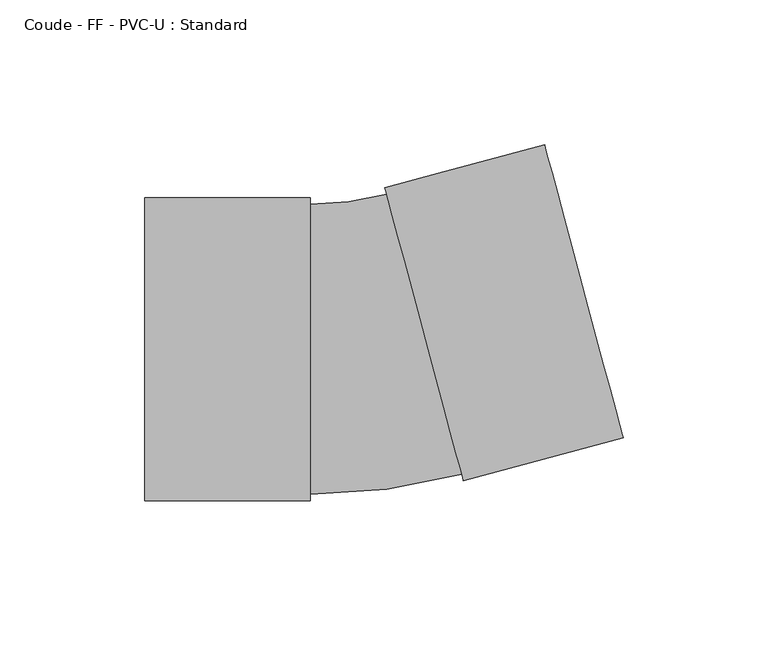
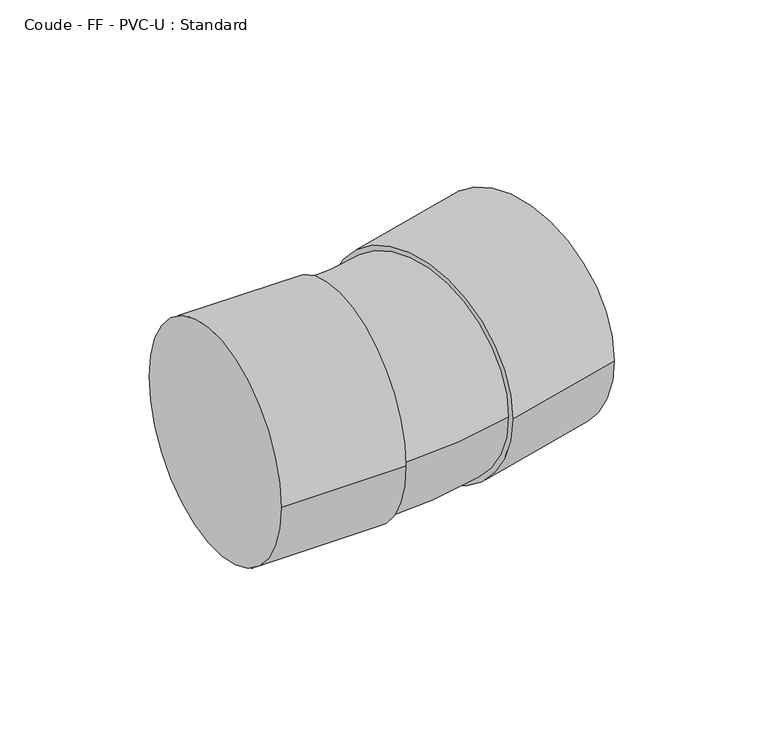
"""IFC4 building model written with IfcOpenShell, lengths in millimetres: pipe fitting geometry, Coude - FF - PVC-U : Standard."""

import ifcopenshell
import ifcopenshell.guid

model = None  # the IFC model being written
_history = None  # IfcOwnerHistory: only IFC2X3 demands one
_inside = {}  # id of a spatial element -> (the spatial element, [elements in it])
_under = {}  # id of a project, library or spatial element -> (it, [spatial elements below it])
_declared = {}  # id of a project -> (the project, [libraries it declares])
_typed = {}  # id of a type object -> (the type object, [elements of that type])
_made_of = {}  # id of a material, layer set ... -> (it, [elements and type objects made of it])


def new_model(schema):
    """Start an empty IFC model of exactly this schema.

    Asked for "IFC4X3", IfcOpenShell would pick the latest addendum, in which some entities
    have other attributes; the version numbers below select the first issue.
    IFC2X3 requires an IfcOwnerHistory on every rooted entity: one is made here for all.
    """
    global model, _history
    if schema == "IFC4X3":
        model = ifcopenshell.file(schema_version=(4, 3, 0, 0))
    else:
        model = ifcopenshell.file(schema=schema)
    _inside.clear()
    _under.clear()
    _declared.clear()
    _typed.clear()
    _made_of.clear()
    _history = None
    if model.schema == "IFC2X3":
        org = make("IfcOrganization", Name="unknown")
        user = make(
            "IfcPersonAndOrganization",
            ThePerson=make("IfcPerson", FamilyName="unknown"),
            TheOrganization=org,
        )
        app = make(
            "IfcApplication",
            ApplicationDeveloper=org,
            Version="unknown",
            ApplicationFullName="unknown",
            ApplicationIdentifier="unknown",
        )
        _history = make(
            "IfcOwnerHistory",
            OwningUser=user,
            OwningApplication=app,
            ChangeAction="ADDED",
            CreationDate=0,
        )
    return model


def make(cls, **values):
    """One entity of the class cls with the attributes given. An attribute that is None is left unset."""
    return model.create_entity(
        cls, **{name: value for name, value in values.items() if value is not None}
    )


def rooted(cls, **values):
    """An entity with a GlobalId (a new one), such as an element, a storey or a relation."""
    return make(cls, GlobalId=ifcopenshell.guid.new(), OwnerHistory=_history, **values)


def si_unit(unit_type, name, prefix=None):
    """IfcSIUnit, for example si_unit("LENGTHUNIT", "METRE", prefix="MILLI")."""
    return make("IfcSIUnit", UnitType=unit_type, Prefix=prefix, Name=name)


def assignment(units):
    """IfcUnitAssignment: the units of a project."""
    return None if units is None else make("IfcUnitAssignment", Units=units)


def point(xyz):
    """IfcCartesianPoint."""
    return None if xyz is None else make("IfcCartesianPoint", Coordinates=xyz)


def direction(xyz):
    """IfcDirection."""
    return None if xyz is None else make("IfcDirection", DirectionRatios=xyz)


def frame(location, z_axis=None, x_axis=None):
    """IfcAxis2Placement3D, a coordinate frame: its origin and axes. An axis left out is left unset."""
    return make(
        "IfcAxis2Placement3D",
        Location=point(location),
        Axis=direction(z_axis),
        RefDirection=direction(x_axis),
    )


def origin():
    """The frame at (0, 0, 0) with its axes left unset."""
    return frame((0.0, 0.0, 0.0))


def place(relative_to, where):
    """IfcLocalPlacement: puts the frame where relative to a parent placement (None: the world)."""
    return make(
        "IfcLocalPlacement", PlacementRelTo=relative_to, RelativePlacement=where
    )


def context(
    kind, dimensions, precision=None, world=None, true_north=None, identifier=None
):
    """IfcGeometricRepresentationContext, for example the 3D "Model" context."""
    return make(
        "IfcGeometricRepresentationContext",
        ContextIdentifier=identifier,
        ContextType=kind,
        CoordinateSpaceDimension=dimensions,
        Precision=precision,
        WorldCoordinateSystem=world,
        TrueNorth=true_north,
    )


def project(units=None, contexts=None):
    """IfcProject with its units and contexts."""
    return rooted(
        "IfcProject",
        Name="project",
        RepresentationContexts=contexts,
        UnitsInContext=assignment(units),
    )


def spatial(cls, under=None, at=None, **own):
    """A site, building, storey or space (cls), placed at a placement, below another one or the project."""
    s = rooted(cls, ObjectPlacement=at, **own)
    if under is not None:
        _under.setdefault(under.id(), (under, []))[1].append(s)
    return s


def circle_curve(where, radius):
    """IfcCircle in the frame where."""
    return make("IfcCircle", Position=where, Radius=radius)


def ellipse_curve(where, semi_axis1, semi_axis2):
    """IfcEllipse in the frame where."""
    return make(
        "IfcEllipse", Position=where, SemiAxis1=semi_axis1, SemiAxis2=semi_axis2
    )


def trimmed(basis, trim1, trim2, sense, master):
    """IfcTrimmedCurve: the piece of a basis curve between two trims."""
    return make(
        "IfcTrimmedCurve",
        BasisCurve=basis,
        Trim1=trim1,
        Trim2=trim2,
        SenseAgreement=sense,
        MasterRepresentation=master,
    )


def shape(context_of_items, identifier, shape_type, items):
    """IfcShapeRepresentation: the items that make up one representation, for example the "Body"."""
    return make(
        "IfcShapeRepresentation",
        ContextOfItems=context_of_items,
        RepresentationIdentifier=identifier,
        RepresentationType=shape_type,
        Items=items,
    )


def source(mapping_origin, context_of_items, identifier, shape_type, items):
    """IfcRepresentationMap: a shape defined once, which mapped items show again and again."""
    return make(
        "IfcRepresentationMap",
        MappingOrigin=mapping_origin,
        MappedRepresentation=shape(context_of_items, identifier, shape_type, items),
    )


def transform(
    local_origin,
    x_axis=None,
    y_axis=None,
    z_axis=None,
    scale=None,
    scale2=None,
    scale3=None,
    uniform=True,
):
    """IfcCartesianTransformationOperator3D, or its non-uniform kind. x_axis, y_axis, z_axis: its Axis1, 2, 3."""
    if uniform:
        return make(
            "IfcCartesianTransformationOperator3D",
            Axis1=direction(x_axis),
            Axis2=direction(y_axis),
            LocalOrigin=point(local_origin),
            Scale=scale,
            Axis3=direction(z_axis),
        )
    return make(
        "IfcCartesianTransformationOperator3DnonUniform",
        Axis1=direction(x_axis),
        Axis2=direction(y_axis),
        LocalOrigin=point(local_origin),
        Scale=scale,
        Axis3=direction(z_axis),
        Scale2=scale2,
        Scale3=scale3,
    )


def mapped(mapping_source, mapping_target):
    """IfcMappedItem: shows the shape of a source again, moved by a transform."""
    return make(
        "IfcMappedItem", MappingSource=mapping_source, MappingTarget=mapping_target
    )


def made_of(thing, what):
    """Note that an element or type object is made of a material, layer set ...; save() writes the relation."""
    if what is not None:
        _made_of.setdefault(what.id(), (what, []))[1].append(thing)
    return thing


def element(
    cls,
    number,
    at=None,
    inside=None,
    cuts=None,
    type_object=None,
    material=None,
    context=None,
    identifier="Body",
    shape_type=None,
    held_by="IfcProductDefinitionShape",
    body=None,
    shapes=None,
    **own,
):
    """One element of the class cls, such as IfcWall. Its Tag is "e" and its number.

    at: its placement. inside: the storey or other place that contains it. cuts: it is an
    opening in that element (IfcRelVoidsElement). A single representation is given by context,
    identifier, shape_type and body (its items); several are given by shapes. held_by: the class
    of the entity that holds the representations. save() writes the other relations.
    """
    e = rooted(cls, Tag="e%d" % number, ObjectPlacement=at, **own)
    if body is not None:
        shapes = [shape(context, identifier, shape_type, body)]
    if shapes is not None:
        e.Representation = make(held_by, Representations=shapes)
    if inside is not None:
        _inside.setdefault(inside.id(), (inside, []))[1].append(e)
    if cuts is not None:
        rooted(
            "IfcRelVoidsElement", RelatingBuildingElement=cuts, RelatedOpeningElement=e
        )
    if type_object is not None:
        _typed.setdefault(type_object.id(), (type_object, []))[1].append(e)
    return made_of(e, material)


def aggregate(whole, parts):
    """IfcRelAggregates: a whole, such as a stair, and the parts it consists of."""
    return rooted("IfcRelAggregates", RelatingObject=whole, RelatedObjects=parts)


def save(model, path):
    """Write the relations noted so far, then the file.

    IfcRelAggregates (storeys below a building ...), IfcRelContainedInSpatialStructure (elements
    in a storey), IfcRelDefinesByType, IfcRelAssociatesMaterial and IfcRelDeclares: one each for
    every whole, place, type object, material and project.
    """
    for whole, parts in _under.values():
        aggregate(whole, parts)
    for where, things in _inside.values():
        rooted(
            "IfcRelContainedInSpatialStructure",
            RelatedElements=things,
            RelatingStructure=where,
        )
    for kind, things in _typed.values():
        rooted("IfcRelDefinesByType", RelatedObjects=things, RelatingType=kind)
    for what, things in _made_of.values():
        rooted("IfcRelAssociatesMaterial", RelatedObjects=things, RelatingMaterial=what)
    for by, libraries in _declared.values():
        rooted("IfcRelDeclares", RelatingContext=by, RelatedDefinitions=libraries)
    model.write(path)


def plane_surface(at):
    """IfcPlane: the flat surface through the origin of the frame at, square to its z axis."""
    return make("IfcPlane", Position=at)


def cylinder_surface(at, radius):
    """IfcCylindricalSurface: all points at the distance radius from the z axis of the frame at."""
    return make("IfcCylindricalSurface", Position=at, Radius=radius)


def revolved_surface(curve, axis_point, axis_direction):
    """IfcSurfaceOfRevolution: the curve turned about the line through axis_point along axis_direction."""
    return make(
        "IfcSurfaceOfRevolution",
        SweptCurve=make("IfcArbitraryOpenProfileDef", ProfileType="CURVE", Curve=curve),
        AxisPosition=make("IfcAxis1Placement", Location=point(axis_point), Axis=direction(axis_direction)),
    )


def advanced_brep(points, edges, surfaces, faces):
    """IfcAdvancedBrep: a solid bounded by faces that lie on surfaces and meet in shared edges.

    An edge is (start, end): straight between two places in points (the first is 0);
    or (start, end, curve); or (start, end, curve, False) where it runs against its curve.
    A face is (place in surfaces, loops), or (place, loops, False) where it looks against
    its surface's normal. A loop lists edges by number (the first is 1), with a minus sign
    where the edge is run from its end to its start. The first loop is the outer one.
    """
    corners = [point(p) for p in points]
    vertices = [make("IfcVertexPoint", VertexGeometry=c) for c in corners]
    made = []
    for start, end, *more in edges:
        made.append(
            make(
                "IfcEdgeCurve",
                EdgeStart=vertices[start],
                EdgeEnd=vertices[end],
                EdgeGeometry=more[0] if more else make("IfcPolyline", Points=[corners[start], corners[end]]),
                SameSense=more[1] if len(more) > 1 else True,
            )
        )
    hull = []
    for where, loops, *sense in faces:
        bounds = []
        for j, loop in enumerate(loops):
            ring = [make("IfcOrientedEdge", EdgeElement=made[abs(k) - 1], Orientation=k > 0) for k in loop]
            bounds.append(
                make(
                    "IfcFaceOuterBound" if j == 0 else "IfcFaceBound",
                    Bound=make("IfcEdgeLoop", EdgeList=ring),
                    Orientation=True,
                )
            )
        hull.append(make("IfcAdvancedFace", Bounds=bounds, FaceSurface=surfaces[where], SameSense=sense[0] if sense else True))
    return make("IfcAdvancedBrep", Outer=make("IfcClosedShell", CfsFaces=hull))


def coude_ff_pvc_u_standard_9ff05ce2(model_context):
    return source(origin(), model_context, "Body", "AdvancedBrep", [
        advanced_brep(
        [(-77.0, -52.3, 0.0), (-77.0, 52.3, 0.0), (-20.0, -52.3, 0.0), (-20.0, 52.3, 0.0), (-20.0, -50.0, 0.0), (-20.0, 50.0, 0.0), (6.3793219, 53.4724626, 0.0), (32.2580515, -43.1209707, 0.0), (32.8532622, -45.3426197, 0.0), (5.7841111, 55.6941115, 0.0), (87.9115192, -30.5917438, 0.0), (60.8423681, 70.4449874, 0.0)],
        [
            (0, 1, circle_curve(frame((-77.0, 0.0, 0.0), z_axis=(-1.0, 0.0, 0.0), x_axis=(0.0, 1.0, 0.0)), 52.3)),
            (1, 0, circle_curve(frame((-77.0, 0.0, 0.0), z_axis=(-1.0, 0.0, 0.0), x_axis=(0.0, 1.0, 0.0)), 52.3)),
            (2, 3, circle_curve(frame((-20.0, 0.0, 0.0), z_axis=(1.0, 0.0, 0.0), x_axis=(0.0, 1.0, 0.0)), 52.3)),
            (3, 2, circle_curve(frame((-20.0, 0.0, 0.0), z_axis=(1.0, 0.0, 0.0), x_axis=(0.0, 1.0, 0.0)), 52.3)),
            (4, 5, circle_curve(frame((-20.0, 0.0, 0.0), z_axis=(-1.0, 0.0, 0.0), x_axis=(0.0, 1.0, 0.0)), 50.0)),
            (5, 4, circle_curve(frame((-20.0, 0.0, 0.0), z_axis=(-1.0, 0.0, 0.0), x_axis=(0.0, 1.0, 0.0)), 50.0)),
            (0, 2),
            (3, 1),
            (6, 5, circle_curve(frame((-20.0, 151.9343773, 0.0), z_axis=(0.0, 0.0, -1.0), x_axis=(0.0, -1.0, 0.0)), 101.9343773)),
            (4, 7, circle_curve(frame((-20.0, 151.9343773, 0.0), z_axis=(0.0, 0.0, 1.0), x_axis=(0.0, -1.0, 0.0)), 201.9343773)),
            (7, 6, circle_curve(frame((19.3186867, 5.1757459, 0.0), z_axis=(-0.9659343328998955, -0.25878729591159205, 0.0), x_axis=(-0.25878729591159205, 0.9659343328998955, 0.0)), 50.0)),
            (6, 7, circle_curve(frame((19.3186867, 5.1757459, 0.0), z_axis=(-0.9659343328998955, -0.25878729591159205, 0.0), x_axis=(-0.25878729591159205, 0.9659343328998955, 0.0)), 50.0)),
            (8, 9, circle_curve(frame((19.3186867, 5.1757459, 0.0), z_axis=(-0.9659343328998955, -0.2587872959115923, 0.0), x_axis=(-0.2587872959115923, 0.9659343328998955, 0.0)), 52.3)),
            (9, 8, circle_curve(frame((19.3186867, 5.1757459, 0.0), z_axis=(-0.9659343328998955, -0.2587872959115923, 0.0), x_axis=(-0.2587872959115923, 0.9659343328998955, 0.0)), 52.3)),
            (10, 11, circle_curve(frame((74.3769436, 19.9266218, 0.0), z_axis=(0.9659343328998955, 0.2587872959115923, 0.0), x_axis=(-0.2587872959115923, 0.9659343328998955, 0.0)), 52.3)),
            (11, 10, circle_curve(frame((74.3769436, 19.9266218, 0.0), z_axis=(0.9659343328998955, 0.2587872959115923, 0.0), x_axis=(-0.2587872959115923, 0.9659343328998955, 0.0)), 52.3)),
            (8, 10),
            (11, 9),
        ],
        [
            plane_surface(frame((-77.0, 0.0, 0.0), z_axis=(-1.0, 0.0, 0.0), x_axis=(0.0, 0.0, 1.0))),
            plane_surface(frame((-20.0, 0.0, 0.0), z_axis=(1.0, 0.0, 0.0), x_axis=(0.0, 0.0, 1.0))),
            cylinder_surface(frame((-77.0, 0.0, 0.0), z_axis=(-1.0, 0.0, 0.0), x_axis=(0.0, 1.0, 0.0)), 52.3),
            revolved_surface(trimmed(ellipse_curve(frame((-20.0, 0.0, 0.0), z_axis=(-1.0, 0.0, 0.0), x_axis=(0.0, 1.0, 0.0)), 50.0, 50.0), [point((-20.0, -50.0, 0.0))], [point((-20.0, 50.0, 0.0))], True, "CARTESIAN"), (-20.0, 151.9343773, 0.0), (0.0, 0.0, 1.0)),
            revolved_surface(trimmed(ellipse_curve(frame((-20.0, 0.0, 0.0), z_axis=(-1.0, 0.0, 0.0), x_axis=(0.0, 1.0, 0.0)), 50.0, 50.0), [point((-20.0, 50.0, 0.0))], [point((-20.0, -50.0, 0.0))], True, "CARTESIAN"), (-20.0, 151.9343773, 0.0), (0.0, 0.0, 1.0)),
            plane_surface(frame((19.3186867, 5.1757459, 0.0), z_axis=(-0.9659343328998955, -0.2587872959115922, 0.0), x_axis=(0.0, 0.0, 1.0))),
            plane_surface(frame((74.3769436, 19.9266218, 0.0), z_axis=(0.9659343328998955, 0.2587872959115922, 0.0), x_axis=(0.0, 0.0, 1.0))),
            cylinder_surface(frame((19.3186867, 5.1757459, 0.0), z_axis=(-0.9659343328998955, -0.2587872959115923, 0.0), x_axis=(-0.2587872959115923, 0.9659343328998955, 0.0)), 52.3),
        ],
        [
            (0, [[1, 2]]),
            (1, [[3, 4], [5, 6]]),
            (2, [[-1, 7, -4, 8]]),
            (2, [[-2, -8, -3, -7]]),
            (3, [[9, -5, 10, 11]]),
            (4, [[-9, 12, -10, -6]]),
            (5, [[13, 14], [-11, -12]]),
            (6, [[15, 16]]),
            (7, [[-13, 17, -16, 18]]),
            (7, [[-14, -18, -15, -17]]),
        ],
    ),
    ])


if __name__ == "__main__":
    model = new_model("IFC4")
    model_context = context("Model", 3, world=origin())
    ifc_project = project(units=[si_unit("LENGTHUNIT", "METRE", prefix="MILLI")], contexts=[model_context])
    site = spatial("IfcSite", under=ifc_project)
    building = spatial("IfcBuilding", under=site)
    placement = place(None, origin())
    coude_ff_pvc_u_standard_shape = coude_ff_pvc_u_standard_9ff05ce2(model_context)
    element("IfcPipeFitting", 1, ObjectType="Coude - FF - PVC-U : Standard", at=placement, inside=building, context=model_context, shape_type="MappedRepresentation", body=[
        mapped(coude_ff_pvc_u_standard_shape, transform((0.0, 0.0, 0.0), x_axis=(1.0, 0.0, 0.0), y_axis=(0.0, 1.0, 0.0), z_axis=(0.0, 0.0, 1.0))),
    ])
    save(model, "model.ifc")
